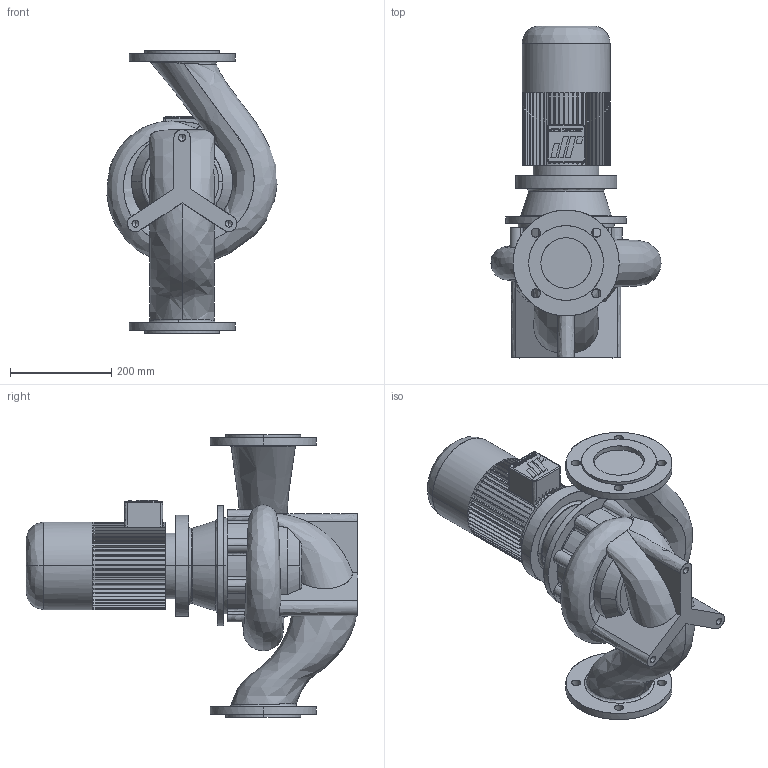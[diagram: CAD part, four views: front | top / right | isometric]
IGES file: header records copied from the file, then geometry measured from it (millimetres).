
Start section: CombiLine
Global section: file name: CLB_100-160_IEC90S.igs; native system:  By UGS Corp.; preprocessor: XPlus GENERIC/IGES 3.0; author: Stageplaats; organization: Johnson Pump Water B.V.; date: 20070716.084013; units: millimetre
Bounding box: 336.7 x 657 x 560 mm (x, y, z)
Surface area: 1041121.4 mm2 (no closed solid volume)
Topology: 0 solids, 0 shells, 543 faces, 3313 edges, 3307 vertices
Faces by surface type: bspline 543
